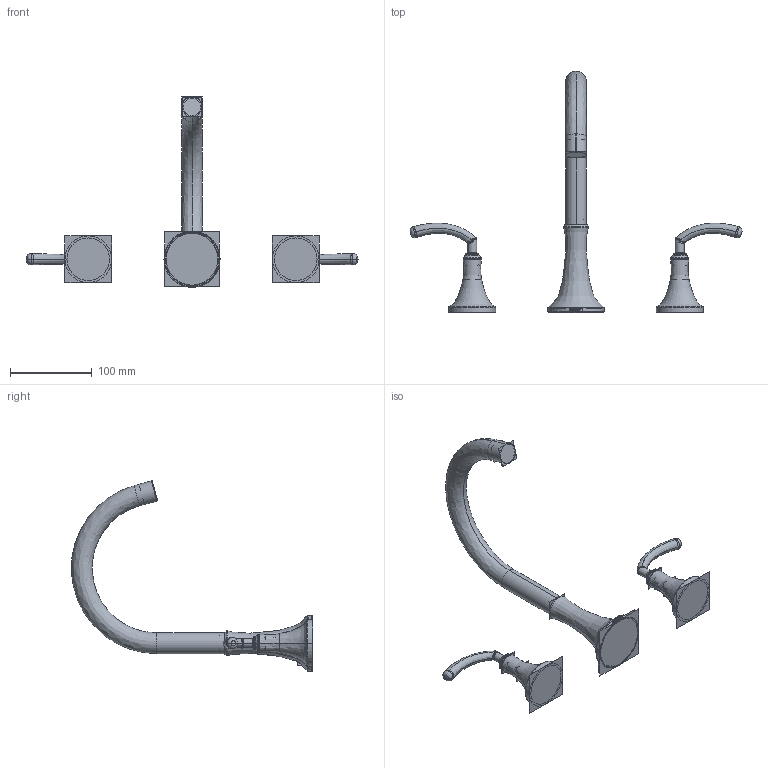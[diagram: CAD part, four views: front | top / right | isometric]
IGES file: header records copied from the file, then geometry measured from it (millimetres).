
Start section:  PTC IGES file: sku_t963_asm.igs
Global section: file name: sku_t963_asm.igs; native system: Pro/ENGINEER by Parametric Technology Corporation; preprocessor: 2007460; author: 9kanim; organization: Unknown; date: 20081007.105652; units: inch
Bounding box: 406.44 x 295.22 x 233.2 mm (x, y, z)
Volume: 226810.5 mm3; surface area: 549832.1 mm2
Topology: 6 solids, 6 shells, 3084 faces, 15270 edges, 19355 vertices
Faces by surface type: revolution 2118, bspline 966
